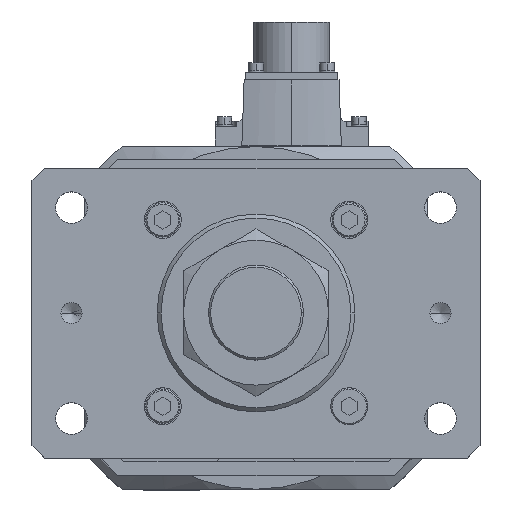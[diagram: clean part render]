
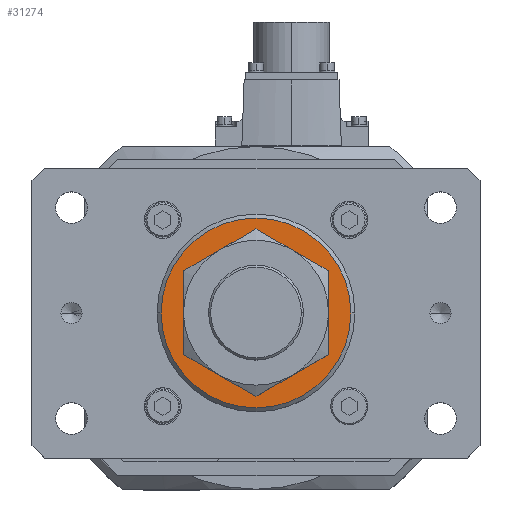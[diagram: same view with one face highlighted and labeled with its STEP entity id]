
A CAD part, top view. The second image highlights one B-rep face of the part: STEP entity #31274.
In plain terms, the highlighted planar face has unit normal (0, 0, 1).
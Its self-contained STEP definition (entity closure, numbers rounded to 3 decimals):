
#555 = CIRCLE ( 'NONE', #24833, 23. ) ;
#1357 = CIRCLE ( 'NONE', #13936, 23. ) ;
#3343 = FACE_OUTER_BOUND ( 'NONE', #15710, .T. ) ;
#5299 = AXIS2_PLACEMENT_3D ( 'NONE', #21869, #36211, #15993 ) ;
#5524 = FACE_BOUND ( 'NONE', #25909, .T. ) ;
#6653 = EDGE_CURVE ( 'NONE', #30962, #15255, #27912, .T. ) ;
#7351 = CARTESIAN_POINT ( 'NONE',  ( -23., 0., 796. ) ) ;
#7410 = ORIENTED_EDGE ( 'NONE', *, *, #21147, .T. ) ;
#8134 = DIRECTION ( 'NONE',  ( 1., 0., 0. ) ) ;
#8711 = EDGE_CURVE ( 'NONE', #15255, #30962, #11457, .T. ) ;
#9748 = CARTESIAN_POINT ( 'NONE',  ( 0., 0., 796. ) ) ;
#11261 = ORIENTED_EDGE ( 'NONE', *, *, #6653, .T. ) ;
#11457 = CIRCLE ( 'NONE', #13757, 36. ) ;
#12487 = DIRECTION ( 'NONE',  ( 1., 0., 0. ) ) ;
#13757 = AXIS2_PLACEMENT_3D ( 'NONE', #30473, #30239, #24874 ) ;
#13936 = AXIS2_PLACEMENT_3D ( 'NONE', #28128, #16515, #16763 ) ;
#14226 = CARTESIAN_POINT ( 'NONE',  ( 0., 0., 796. ) ) ;
#15121 = AXIS2_PLACEMENT_3D ( 'NONE', #14226, #33840, #8134 ) ;
#15255 = VERTEX_POINT ( 'NONE', #31310 ) ;
#15710 = EDGE_LOOP ( 'NONE', ( #11261, #19659 ) ) ;
#15993 = DIRECTION ( 'NONE',  ( 1., 0., 0. ) ) ;
#16515 = DIRECTION ( 'NONE',  ( 0., 0., -1. ) ) ;
#16763 = DIRECTION ( 'NONE',  ( 1., 0., 0. ) ) ;
#19659 = ORIENTED_EDGE ( 'NONE', *, *, #8711, .T. ) ;
#20434 = CARTESIAN_POINT ( 'NONE',  ( 23., 0., 796. ) ) ;
#21147 = EDGE_CURVE ( 'NONE', #27084, #36889, #1357, .T. ) ;
#21869 = CARTESIAN_POINT ( 'NONE',  ( 0., 0., 796. ) ) ;
#24832 = ORIENTED_EDGE ( 'NONE', *, *, #26469, .T. ) ;
#24833 = AXIS2_PLACEMENT_3D ( 'NONE', #9748, #29580, #12487 ) ;
#24874 = DIRECTION ( 'NONE',  ( 1., 0., 0. ) ) ;
#25909 = EDGE_LOOP ( 'NONE', ( #7410, #24832 ) ) ;
#26469 = EDGE_CURVE ( 'NONE', #36889, #27084, #555, .T. ) ;
#27084 = VERTEX_POINT ( 'NONE', #20434 ) ;
#27912 = CIRCLE ( 'NONE', #15121, 36. ) ;
#28128 = CARTESIAN_POINT ( 'NONE',  ( 0., 0., 796. ) ) ;
#29580 = DIRECTION ( 'NONE',  ( 0., 0., -1. ) ) ;
#30239 = DIRECTION ( 'NONE',  ( 0., 0., 1. ) ) ;
#30473 = CARTESIAN_POINT ( 'NONE',  ( 0., 0., 796. ) ) ;
#30962 = VERTEX_POINT ( 'NONE', #34004 ) ;
#31274 = ADVANCED_FACE ( 'NONE', ( #5524, #3343 ), #35850, .T. ) ;
#31310 = CARTESIAN_POINT ( 'NONE',  ( 36., 0., 796. ) ) ;
#33840 = DIRECTION ( 'NONE',  ( 0., 0., 1. ) ) ;
#34004 = CARTESIAN_POINT ( 'NONE',  ( -36., 0., 796. ) ) ;
#35850 = PLANE ( 'NONE',  #5299 ) ;
#36211 = DIRECTION ( 'NONE',  ( 0., 0., 1. ) ) ;
#36889 = VERTEX_POINT ( 'NONE', #7351 ) ;
